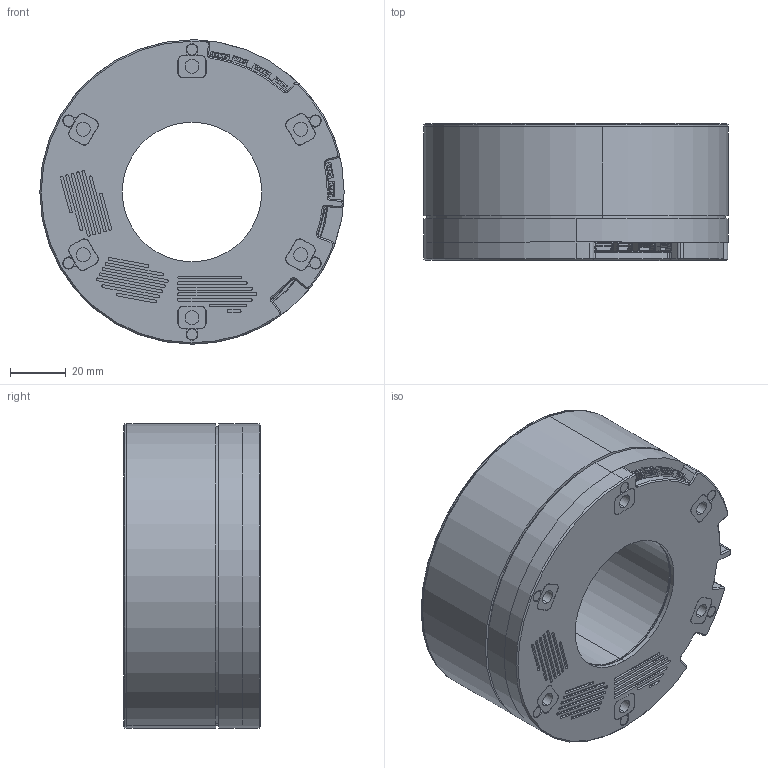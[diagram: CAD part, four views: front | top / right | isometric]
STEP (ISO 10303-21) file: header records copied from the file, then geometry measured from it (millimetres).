
FILE_DESCRIPTION (( 'STEP AP214' ), '1' );
FILE_NAME ('OT10025耀倰_20230221.STEP', '2023-02-21T09:52:56', ( '' ), ( '' ), 'SwSTEP 2.0', 'SolidWorks 2016', '' );
FILE_SCHEMA (( 'AUTOMOTIVE_DESIGN' ));
Length unit declared in the file: millimetre
Products named in the file (1): OT10025耀倰_20230221
Bounding box: 109 x 49 x 109 mm (x, y, z)
Surface area: 51643 mm2 (no closed solid volume)
Topology: 0 solids, 42 shells, 689 faces, 2608 edges, 1961 vertices
Faces by surface type: plane 407, cylinder 222, cone 40, bspline 20
Entity records: 37691 total; most frequent: CARTESIAN_POINT 8543, DIRECTION 4355, ORIENTED_EDGE 3943, EDGE_CURVE 2608, VERTEX_POINT 1961, LINE 1785, VECTOR 1785, AXIS2_PLACEMENT_3D 1285
